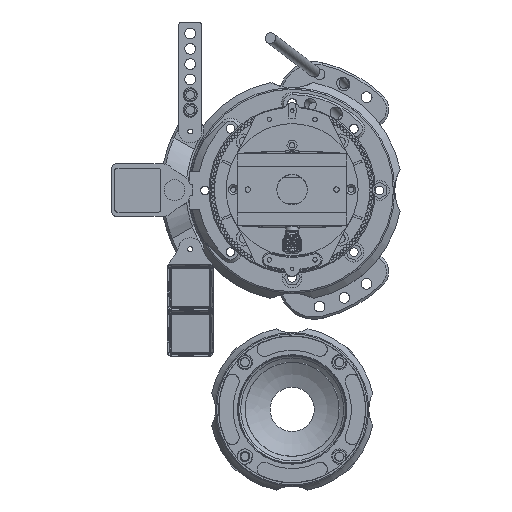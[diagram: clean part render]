
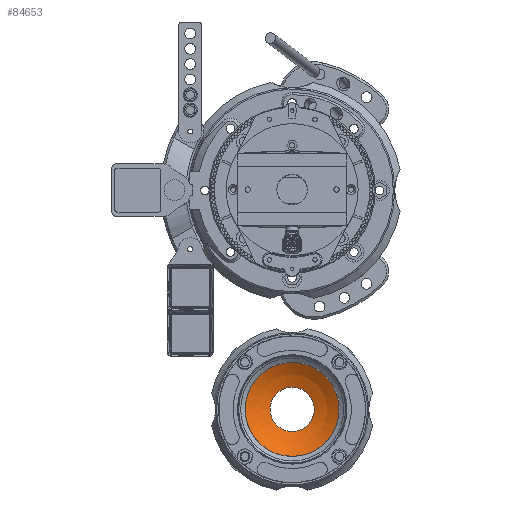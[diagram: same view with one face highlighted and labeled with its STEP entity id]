
A CAD part, top view. The second image highlights one B-rep face of the part: STEP entity #84653.
In plain terms, the highlighted spherical face has radius 75 mm.
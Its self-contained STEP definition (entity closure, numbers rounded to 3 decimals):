
#253=SPHERICAL_SURFACE('',#90721,75.);
#8339=FACE_OUTER_BOUND('',#14147,.T.);
#14147=EDGE_LOOP('',(#57634,#57635,#57636,#57637,#57638));
#33392=CIRCLE('',#90718,42.884);
#33395=CIRCLE('',#90722,20.205);
#33396=CIRCLE('',#90723,75.);
#33397=CIRCLE('',#90724,20.205);
#36862=VERTEX_POINT('',#122492);
#36864=VERTEX_POINT('',#122498);
#36865=VERTEX_POINT('',#122499);
#44744=EDGE_CURVE('',#36862,#36862,#33392,.T.);
#44747=EDGE_CURVE('',#36864,#36865,#33395,.T.);
#44748=EDGE_CURVE('',#36865,#36862,#33396,.T.);
#44749=EDGE_CURVE('',#36865,#36864,#33397,.T.);
#57634=ORIENTED_EDGE('',*,*,#44747,.T.);
#57635=ORIENTED_EDGE('',*,*,#44748,.T.);
#57636=ORIENTED_EDGE('',*,*,#44744,.T.);
#57637=ORIENTED_EDGE('',*,*,#44748,.F.);
#57638=ORIENTED_EDGE('',*,*,#44749,.T.);
#84653=ADVANCED_FACE('',(#8339),#253,.F.);
#90718=AXIS2_PLACEMENT_3D('',#122493,#99216,#99217);
#90721=AXIS2_PLACEMENT_3D('',#122497,#99222,#99223);
#90722=AXIS2_PLACEMENT_3D('',#122500,#99224,#99225);
#90723=AXIS2_PLACEMENT_3D('',#122501,#99226,#99227);
#90724=AXIS2_PLACEMENT_3D('',#122502,#99228,#99229);
#99216=DIRECTION('center_axis',(0.,0.,1.));
#99217=DIRECTION('ref_axis',(1.,0.,0.));
#99222=DIRECTION('center_axis',(0.,0.,1.));
#99223=DIRECTION('ref_axis',(1.,0.,0.));
#99224=DIRECTION('center_axis',(0.,0.,-1.));
#99225=DIRECTION('ref_axis',(0.,1.,0.));
#99226=DIRECTION('center_axis',(0.,1.,0.));
#99227=DIRECTION('ref_axis',(-1.,0.,0.));
#99228=DIRECTION('center_axis',(0.,0.,-1.));
#99229=DIRECTION('ref_axis',(0.,1.,0.));
#122492=CARTESIAN_POINT('',(-42.884,-200.,-76.531));
#122493=CARTESIAN_POINT('Origin',(0.,-200.,-76.531));
#122497=CARTESIAN_POINT('Origin',(0.,-200.,-15.));
#122498=CARTESIAN_POINT('',(0.,-220.205,-87.227));
#122499=CARTESIAN_POINT('',(-20.205,-200.,-87.227));
#122500=CARTESIAN_POINT('Origin',(0.,-200.,-87.227));
#122501=CARTESIAN_POINT('Origin',(0.,-200.,-15.));
#122502=CARTESIAN_POINT('Origin',(0.,-200.,-87.227));
